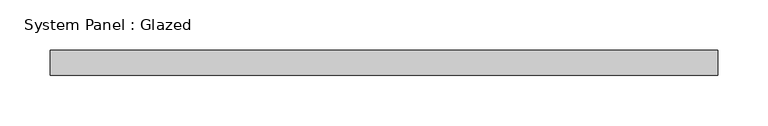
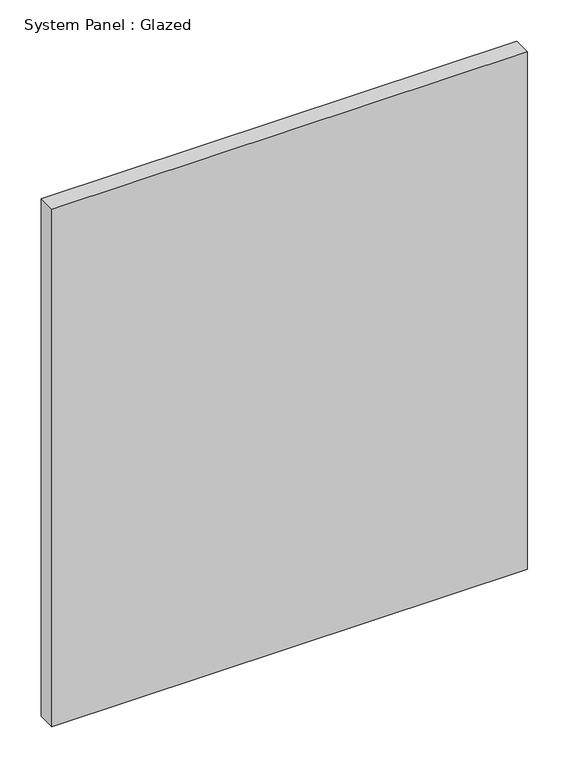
"""IFC4 building model written with IfcOpenShell, lengths in millimetres: plate geometry, System Panel : Glazed."""

from ifc_helpers import new_model, si_unit, origin, origin_with_axes, place, context, project, spatial, polyline, outline, extrude, source, transform, mapped, element, save


def system_panel_glazed_4ffc5bf7(model_context):
    return source(origin(), model_context, "Body", "SweptSolid", [
        extrude(outline(polyline([(332.5, 24.5), (-332.5, 24.5), (-332.5, 49.5), (332.5, 49.5), (332.5, 24.5)])), origin_with_axes(), (0.0, 0.0, 1.0), 765.0),
    ])


if __name__ == "__main__":
    model = new_model("IFC4")
    model_context = context("Model", 3, world=origin())
    ifc_project = project(units=[si_unit("LENGTHUNIT", "METRE", prefix="MILLI")], contexts=[model_context])
    site = spatial("IfcSite", under=ifc_project)
    building = spatial("IfcBuilding", under=site)
    placement = place(None, origin())
    system_panel_glazed_shape = system_panel_glazed_4ffc5bf7(model_context)
    element("IfcPlate", 1, ObjectType="System Panel : Glazed", at=placement, inside=building, context=model_context, shape_type="MappedRepresentation", body=[
        mapped(system_panel_glazed_shape, transform((0.0, 0.0, 0.0), x_axis=(1.0, 0.0, 0.0), y_axis=(0.0, 1.0, 0.0), z_axis=(0.0, 0.0, 1.0))),
    ])
    save(model, "model.ifc")
